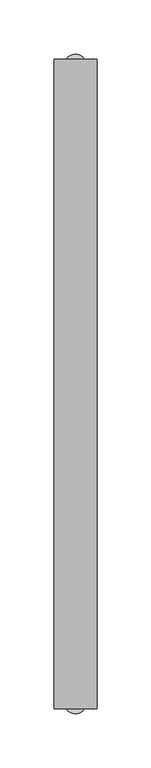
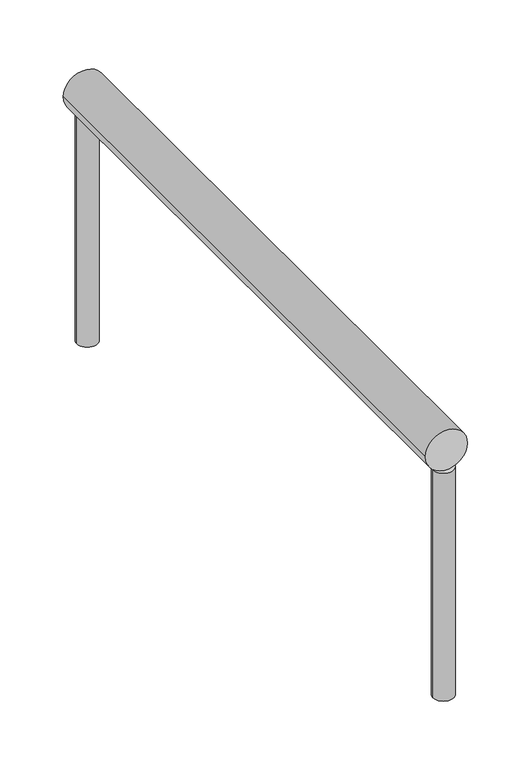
"""IFC4 building model written with IfcOpenShell, lengths in millimetres: railing geometry, Geländer-1."""

from ifc_helpers import new_model, si_unit, point, frame, frame_2d, origin, place, context, project, spatial, circle_curve, trimmed, segment, composite_curve, outline, extrude, source, transform, mapped, element, save


def railing_02694adf(model_context):
    return source(origin(), model_context, "Body", "SweptSolid", [
        extrude(outline(composite_curve([segment(trimmed(circle_curve(frame_2d((1800.0, 1876.3556316)), 20.0), [point((1800.0, 1856.3556316))], [point((1800.0, 1896.3556316))], False, "CARTESIAN"), True, "CONTINUOUS"), segment(trimmed(circle_curve(frame_2d((1800.0, 1876.3556316)), 20.0), [point((1800.0, 1896.3556316))], [point((1800.0, 1856.3556316))], False, "CARTESIAN"), True, "CONTINUOUS")], self_intersect=False)), frame((0.0, -600.0, 0.0), z_axis=(0.0, 1.0, 0.0), x_axis=(0.0, 0.0, 1.0)), (0.0, 0.0, 1.0), 600.0),
        extrude(outline(composite_curve([segment(trimmed(circle_curve(frame_2d((1876.3556316, -595.0)), 10.0), [point((1866.3556316, -595.0))], [point((1886.3556316, -595.0))], False, "CARTESIAN"), True, "CONTINUOUS"), segment(trimmed(circle_curve(frame_2d((1876.3556316, -595.0)), 10.0), [point((1886.3556316, -595.0))], [point((1866.3556316, -595.0))], False, "CARTESIAN"), True, "CONTINUOUS")], self_intersect=False)), frame((0.0, 0.0, 1550.0), z_axis=(0.0, 0.0, 1.0), x_axis=(1.0, 0.0, 0.0)), (0.0, 0.0, 1.0), 230.0),
        extrude(outline(composite_curve([segment(trimmed(circle_curve(frame_2d((1876.3556316, -5.0)), 10.0), [point((1866.3556316, -5.0))], [point((1886.3556316, -5.0))], False, "CARTESIAN"), True, "CONTINUOUS"), segment(trimmed(circle_curve(frame_2d((1876.3556316, -5.0)), 10.0), [point((1886.3556316, -5.0))], [point((1866.3556316, -5.0))], False, "CARTESIAN"), True, "CONTINUOUS")], self_intersect=False)), frame((0.0, 0.0, 1550.0), z_axis=(0.0, 0.0, 1.0), x_axis=(1.0, 0.0, 0.0)), (0.0, 0.0, 1.0), 230.0),
    ])


if __name__ == "__main__":
    model = new_model("IFC4")
    model_context = context("Model", 3, world=origin())
    ifc_project = project(units=[si_unit("LENGTHUNIT", "METRE", prefix="MILLI")], contexts=[model_context])
    site = spatial("IfcSite", under=ifc_project)
    building = spatial("IfcBuilding", under=site)
    placement = place(None, origin())
    railing_shape = railing_02694adf(model_context)
    element("IfcRailing", 1, ObjectType="Geländer-1", at=placement, inside=building, context=model_context, shape_type="MappedRepresentation", body=[
        mapped(railing_shape, transform((0.0, 0.0, 0.0), x_axis=(1.0, 0.0, 0.0), y_axis=(0.0, 1.0, 0.0), z_axis=(0.0, 0.0, 1.0))),
    ])
    save(model, "model.ifc")
